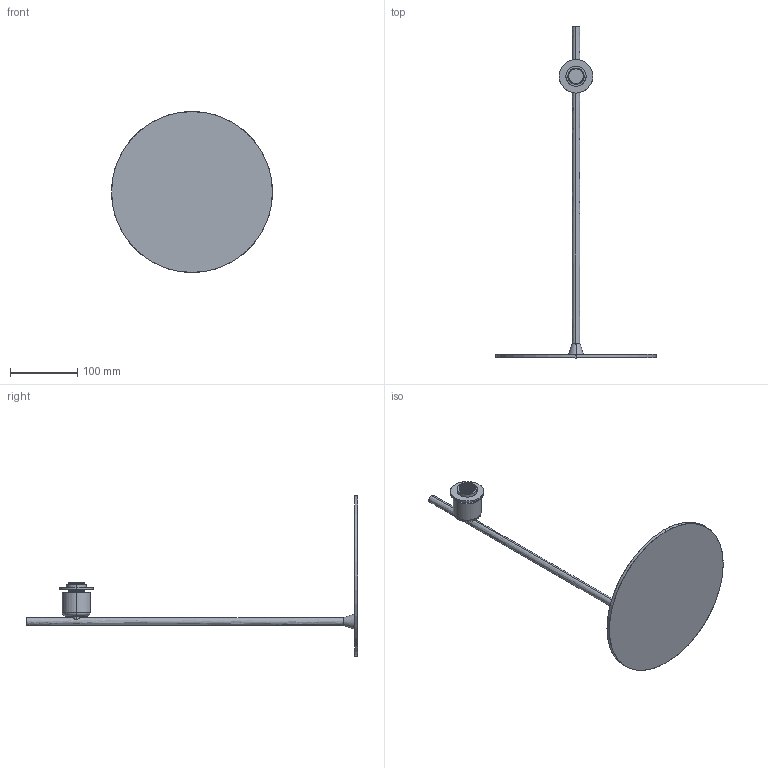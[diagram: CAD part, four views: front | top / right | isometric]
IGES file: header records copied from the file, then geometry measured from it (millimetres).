
Start section: SolidWorks IGES file using analytic representation for surfaces
Global section: file name: C:\Users\danielet\Desktop\ISMAIL\EXCEL\PAMELA-S3913-3D\PAMELA-S3913-3D.IGS; native system: SolidWorks 2018; preprocessor: SolidWorks 2018; author: danielet; date: 230327.104723; units: millimetre
Bounding box: 240 x 495 x 240 mm (x, y, z)
Surface area: 127725.6 mm2 (no closed solid volume)
Topology: 0 solids, 0 shells, 88 faces, 1947 edges, 1947 vertices
Faces by surface type: revolution 65, bspline 23
